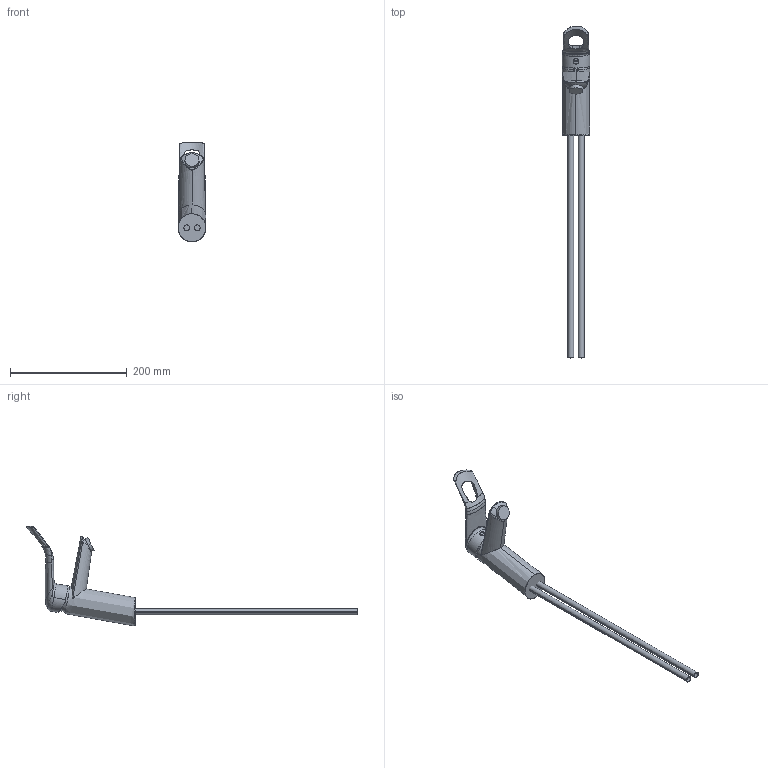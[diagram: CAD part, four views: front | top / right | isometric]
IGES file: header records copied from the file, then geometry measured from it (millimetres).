
Start section:  PTC IGES file: 60867_web.igs
Global section: file name: 60867_web.igs; native system: Creo Parametric by PTC Inc.; preprocessor: 2017380; author: jaj; organization: Unknown; date: 20180705.153907; units: millimetre
Bounding box: 48 x 569.62 x 171.61 mm (x, y, z)
Surface area: 100719.1 mm2 (no closed solid volume)
Topology: 0 solids, 0 shells, 90 faces, 566 edges, 618 vertices
Faces by surface type: bspline 62, revolution 28
